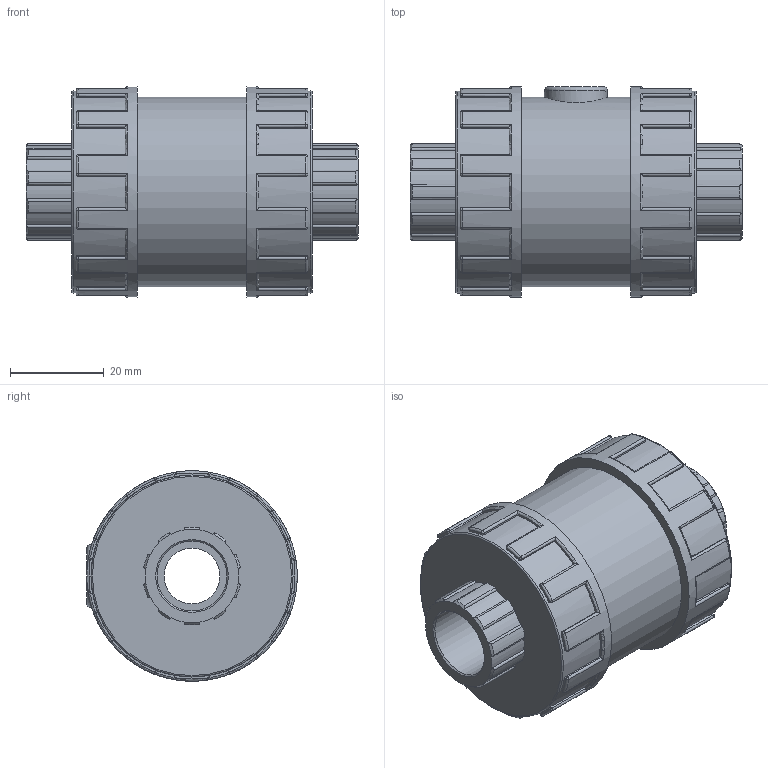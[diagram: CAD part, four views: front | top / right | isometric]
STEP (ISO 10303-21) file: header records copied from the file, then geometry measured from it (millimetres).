
FILE_DESCRIPTION(/* description */ ('PLASSON CHECK VALVE THR 3/8" PTFE COATED SPRING + EPDM O-RING'),/* implementation_level */ '2;1');
FILE_NAME(/* name */ 'C:\Dropbox\KIMPROJECTS-Inventor\99-16-3568-Processing\PVC Catalog 2017\110810 - 110610 110910 - 110010\11081003.ipt.stp',/* time_stamp */ '2017-12-07T16:08:02+02:00',/* author */ ('KIM'),/* organization */ (''),/* preprocessor_version */ 'ST-DEVELOPER v15.6',/* originating_system */ 'Autodesk Inventor 2015',/* authorisation */ '');
FILE_SCHEMA (('AUTOMOTIVE_DESIGN { 1 0 10303 214 3 1 1 }'));
Length unit declared in the file: millimetre
Products named in the file (1): 11081003
Bounding box: 71 x 45 x 45 mm (x, y, z)
Volume: 69920.5 mm3; surface area: 15064.9 mm2
Topology: 1 solids, 1 shells, 411 faces, 1021 edges, 618 vertices
Faces by surface type: cylinder 185, plane 105, torus 51, sphere 48, cone 22
Full cylindrical faces by diameter (mm): 11.96 x1, 13.5 x1, 14.95 x2, 40.5 x1, 43.2 x2, 45 x2
Entity records: 13378 total; most frequent: CARTESIAN_POINT 3599, DIRECTION 2180, ORIENTED_EDGE 1998, EDGE_CURVE 999, AXIS2_PLACEMENT_3D 906, VERTEX_POINT 611, CIRCLE 494, EDGE_LOOP 434
